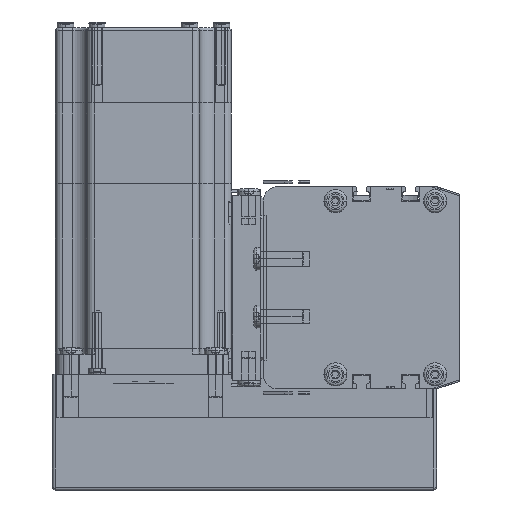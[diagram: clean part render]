
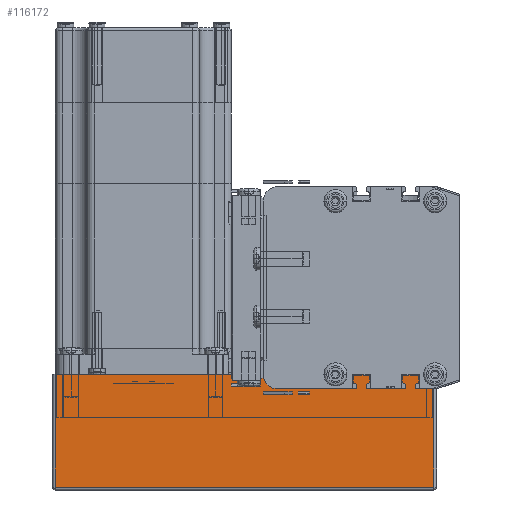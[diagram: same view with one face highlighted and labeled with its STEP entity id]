
A CAD part, left-side view. The second image highlights one B-rep face of the part: STEP entity #116172.
In plain terms, the highlighted planar face has unit normal (-1, 0, 0) as drawn and (0, 1, 0) by its records, which use the part's own axes.
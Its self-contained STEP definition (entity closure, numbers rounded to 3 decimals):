
#24825 = CARTESIAN_POINT ( 'NONE',  ( 0., 62., 0. ) ) ;
#24826 = LINE ( 'NONE', #24825, #24938 ) ;
#24937 = DIRECTION ( 'NONE',  ( -1., 0., 0. ) ) ;
#24938 = VECTOR ( 'NONE', #24937, 1000. ) ;
#25206 = CARTESIAN_POINT ( 'NONE',  ( 1., 62., 0. ) ) ;
#25897 = CARTESIAN_POINT ( 'NONE',  ( 132., 62., 39. ) ) ;
#32098 = DIRECTION ( 'NONE',  ( 0., 0., -1. ) ) ;
#32102 = CARTESIAN_POINT ( 'NONE',  ( 132., 62., 40. ) ) ;
#32105 = CARTESIAN_POINT ( 'NONE',  ( 0., 62., 40. ) ) ;
#32119 = FACE_OUTER_BOUND ( 'NONE', #116198, .T. ) ;
#32123 = AXIS2_PLACEMENT_3D ( 'NONE', #32105, #32163, #32098 ) ;
#32163 = DIRECTION ( 'NONE',  ( 0., -1., 0. ) ) ;
#32170 = PLANE ( 'NONE',  #32123 ) ;
#32281 = DIRECTION ( 'NONE',  ( 0., 0., 1. ) ) ;
#32282 = VECTOR ( 'NONE', #32281, 1000. ) ;
#32285 = CARTESIAN_POINT ( 'NONE',  ( 1., 62., 40. ) ) ;
#32293 = LINE ( 'NONE', #32285, #32282 ) ;
#32302 = DIRECTION ( 'NONE',  ( 0., 0., -1. ) ) ;
#32304 = VECTOR ( 'NONE', #32302, 1000. ) ;
#32312 = LINE ( 'NONE', #32102, #32304 ) ;
#32340 = CARTESIAN_POINT ( 'NONE',  ( 1., 62., 39. ) ) ;
#32915 = DIRECTION ( 'NONE',  ( 1., 0., 0. ) ) ;
#32917 = VECTOR ( 'NONE', #32915, 1000. ) ;
#32918 = CARTESIAN_POINT ( 'NONE',  ( 0., 62., 39. ) ) ;
#32920 = LINE ( 'NONE', #32918, #32917 ) ;
#115256 = VERTEX_POINT ( 'NONE', #148688 ) ;
#115918 = EDGE_CURVE ( 'NONE', #115256, #115956, #24826, .T. ) ;
#115956 = VERTEX_POINT ( 'NONE', #25206 ) ;
#116061 = VERTEX_POINT ( 'NONE', #25897 ) ;
#116172 = ADVANCED_FACE ( 'NONE', ( #32119 ), #32170, .F. ) ;
#116173 = EDGE_CURVE ( 'NONE', #116061, #115256, #32312, .T. ) ;
#116175 = EDGE_CURVE ( 'NONE', #115956, #116211, #32293, .T. ) ;
#116198 = EDGE_LOOP ( 'NONE', ( #116275, #116282, #116287, #116286 ) ) ;
#116211 = VERTEX_POINT ( 'NONE', #32340 ) ;
#116275 = ORIENTED_EDGE ( 'NONE', *, *, #116277, .T. ) ;
#116277 = EDGE_CURVE ( 'NONE', #116211, #116061, #32920, .T. ) ;
#116282 = ORIENTED_EDGE ( 'NONE', *, *, #116173, .T. ) ;
#116286 = ORIENTED_EDGE ( 'NONE', *, *, #116175, .T. ) ;
#116287 = ORIENTED_EDGE ( 'NONE', *, *, #115918, .T. ) ;
#148688 = CARTESIAN_POINT ( 'NONE',  ( 132., 62., 0. ) ) ;
